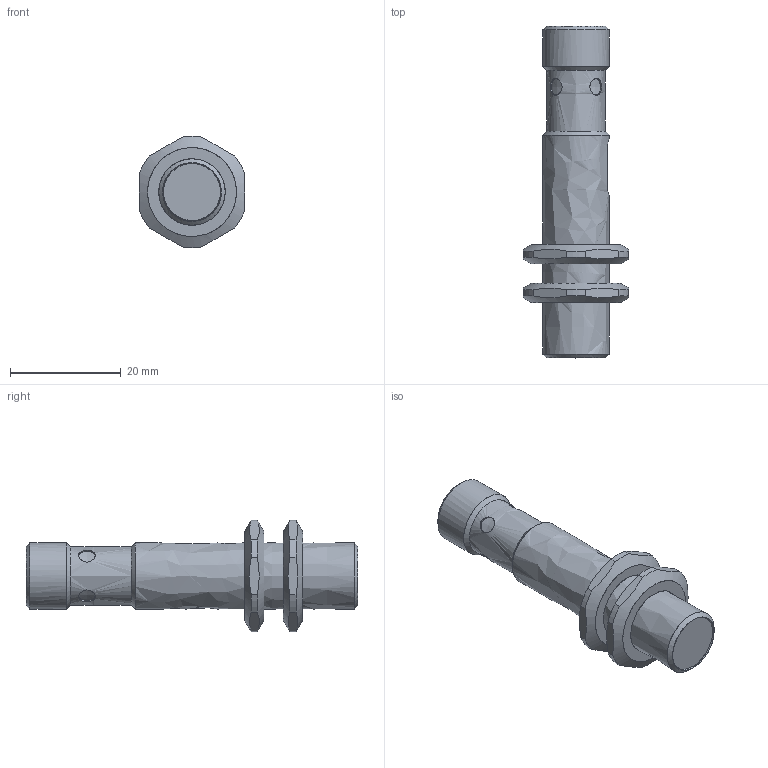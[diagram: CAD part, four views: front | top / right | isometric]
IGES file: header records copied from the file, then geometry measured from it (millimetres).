
Global section: file name: H:\lem\3DCAD_PRK412B_X_M12.igs; native system: NX V11.0; preprocessor: SIEMENS PLM Software NX 11.0; date: 20180705.150337; units: millimetre
Bounding box: 19 x 60 x 20.16 mm (x, y, z)
Surface area: 4033 mm2 (no closed solid volume)
Topology: 0 solids, 0 shells, 84 faces, 731 edges, 697 vertices
Faces by surface type: bspline 84
